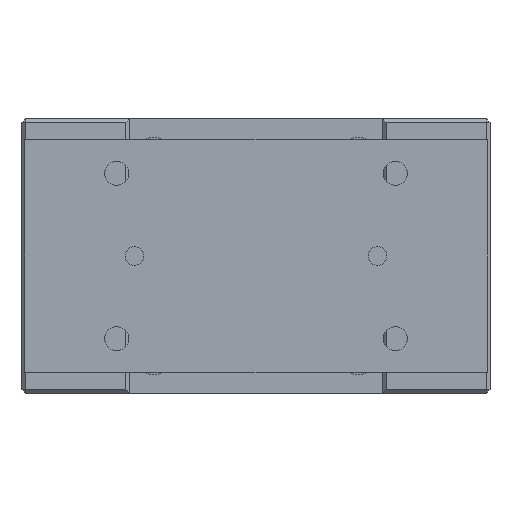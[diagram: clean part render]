
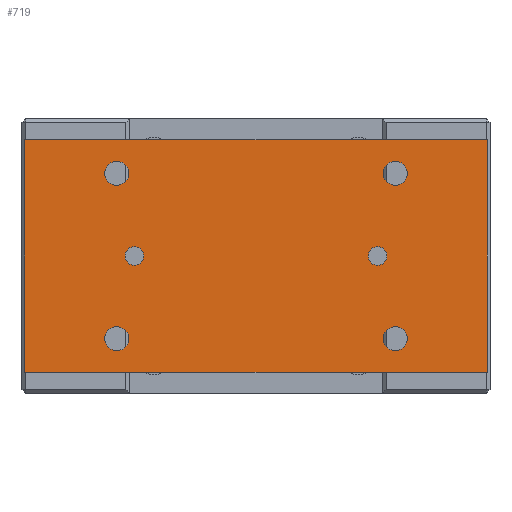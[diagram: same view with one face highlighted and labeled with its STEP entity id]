
A CAD part, left-side view. The second image highlights one B-rep face of the part: STEP entity #719.
In plain terms, the highlighted planar face has unit normal (-1, 0, 0).
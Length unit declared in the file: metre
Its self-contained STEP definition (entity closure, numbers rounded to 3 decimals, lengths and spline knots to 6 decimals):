
#719 = ADVANCED_FACE( '', ( #1580, #1581, #1582, #1583, #1584, #1585, #1586 ), #1587, .T. );
#1580 = FACE_BOUND( '', #2470, .T. );
#1581 = FACE_BOUND( '', #2471, .T. );
#1582 = FACE_BOUND( '', #2472, .T. );
#1583 = FACE_BOUND( '', #2473, .T. );
#1584 = FACE_BOUND( '', #2474, .T. );
#1585 = FACE_BOUND( '', #2475, .T. );
#1586 = FACE_OUTER_BOUND( '', #2476, .T. );
#1587 = PLANE( '', #2477 );
#2470 = EDGE_LOOP( '', ( #4173 ) );
#2471 = EDGE_LOOP( '', ( #4174 ) );
#2472 = EDGE_LOOP( '', ( #4175 ) );
#2473 = EDGE_LOOP( '', ( #4176 ) );
#2474 = EDGE_LOOP( '', ( #4177 ) );
#2475 = EDGE_LOOP( '', ( #4178 ) );
#2476 = EDGE_LOOP( '', ( #4179, #4180, #4181, #4182 ) );
#2477 = AXIS2_PLACEMENT_3D( '', #4183, #4184, #4185 );
#4173 = ORIENTED_EDGE( '', *, *, #4541, .F. );
#4174 = ORIENTED_EDGE( '', *, *, #4769, .T. );
#4175 = ORIENTED_EDGE( '', *, *, #4432, .F. );
#4176 = ORIENTED_EDGE( '', *, *, #4681, .F. );
#4177 = ORIENTED_EDGE( '', *, *, #4297, .F. );
#4178 = ORIENTED_EDGE( '', *, *, #4624, .F. );
#4179 = ORIENTED_EDGE( '', *, *, #4694, .T. );
#4180 = ORIENTED_EDGE( '', *, *, #4323, .T. );
#4181 = ORIENTED_EDGE( '', *, *, #4891, .T. );
#4182 = ORIENTED_EDGE( '', *, *, #4755, .T. );
#4183 = CARTESIAN_POINT( '', ( -0.143, -0.1245, -0.0115 ) );
#4184 = DIRECTION( '', ( -1., 0., 0. ) );
#4185 = DIRECTION( '', ( 0., 0., 1. ) );
#4297 = EDGE_CURVE( '', #4945, #4945, #4946, .T. );
#4323 = EDGE_CURVE( '', #4992, #4990, #4993, .T. );
#4432 = EDGE_CURVE( '', #5174, #5174, #5175, .T. );
#4541 = EDGE_CURVE( '', #5346, #5346, #5347, .T. );
#4624 = EDGE_CURVE( '', #5466, #5466, #5467, .T. );
#4681 = EDGE_CURVE( '', #5551, #5551, #5552, .T. );
#4694 = EDGE_CURVE( '', #5568, #4992, #5569, .T. );
#4755 = EDGE_CURVE( '', #5652, #5568, #5653, .T. );
#4769 = EDGE_CURVE( '', #5670, #5670, #5671, .T. );
#4891 = EDGE_CURVE( '', #4990, #5652, #5817, .T. );
#4945 = VERTEX_POINT( '', #5879 );
#4946 = CIRCLE( '', #5880, 0.0065 );
#4990 = VERTEX_POINT( '', #5935 );
#4992 = VERTEX_POINT( '', #5938 );
#4993 = LINE( '', #5939, #5940 );
#5174 = VERTEX_POINT( '', #6210 );
#5175 = CIRCLE( '', #6211, 0.0065 );
#5346 = VERTEX_POINT( '', #6498 );
#5347 = CIRCLE( '', #6499, 0.005 );
#5466 = VERTEX_POINT( '', #6655 );
#5467 = CIRCLE( '', #6656, 0.0065 );
#5551 = VERTEX_POINT( '', #6862 );
#5552 = CIRCLE( '', #6863, 0.0065 );
#5568 = VERTEX_POINT( '', #6883 );
#5569 = LINE( '', #6884, #6885 );
#5652 = VERTEX_POINT( '', #7029 );
#5653 = LINE( '', #7030, #7031 );
#5670 = VERTEX_POINT( '', #7053 );
#5671 = CIRCLE( '', #7054, 0.005 );
#5817 = LINE( '', #7256, #7257 );
#5879 = CARTESIAN_POINT( '', ( -0.143, -0.075, -0.023 ) );
#5880 = AXIS2_PLACEMENT_3D( '', #7304, #7305, #7306 );
#5935 = CARTESIAN_POINT( '', ( -0.143, 0.1245, -0.0115 ) );
#5938 = CARTESIAN_POINT( '', ( -0.143, -0.1245, -0.0115 ) );
#5939 = CARTESIAN_POINT( '', ( -0.143, -0.1245, -0.0115 ) );
#5940 = VECTOR( '', #7340, 1. );
#6210 = CARTESIAN_POINT( '', ( -0.143, -0.075, -0.112 ) );
#6211 = AXIS2_PLACEMENT_3D( '', #7466, #7467, #7468 );
#6498 = CARTESIAN_POINT( '', ( -0.143, -0.0705, -0.074 ) );
#6499 = AXIS2_PLACEMENT_3D( '', #7600, #7601, #7602 );
#6655 = CARTESIAN_POINT( '', ( -0.143, 0.075, -0.023 ) );
#6656 = AXIS2_PLACEMENT_3D( '', #7691, #7692, #7693 );
#6862 = CARTESIAN_POINT( '', ( -0.143, 0.075, -0.112 ) );
#6863 = AXIS2_PLACEMENT_3D( '', #7750, #7751, #7752 );
#6883 = CARTESIAN_POINT( '', ( -0.143, -0.1245, -0.1365 ) );
#6884 = CARTESIAN_POINT( '', ( -0.143, -0.1245, -0.1365 ) );
#6885 = VECTOR( '', #7763, 1. );
#7029 = CARTESIAN_POINT( '', ( -0.143, 0.1245, -0.1365 ) );
#7030 = CARTESIAN_POINT( '', ( -0.143, 0.1245, -0.1365 ) );
#7031 = VECTOR( '', #7816, 1. );
#7053 = CARTESIAN_POINT( '', ( -0.143, 0.0705, -0.074 ) );
#7054 = AXIS2_PLACEMENT_3D( '', #7828, #7829, #7830 );
#7256 = CARTESIAN_POINT( '', ( -0.143, 0.1245, -0.0115 ) );
#7257 = VECTOR( '', #7926, 1. );
#7304 = CARTESIAN_POINT( '', ( -0.143, -0.075, -0.0295 ) );
#7305 = DIRECTION( '', ( -1., 0., 0. ) );
#7306 = DIRECTION( '', ( 0., 0., 1. ) );
#7340 = DIRECTION( '', ( 0., 1., 0. ) );
#7466 = CARTESIAN_POINT( '', ( -0.143, -0.075, -0.1185 ) );
#7467 = DIRECTION( '', ( -1., 0., 0. ) );
#7468 = DIRECTION( '', ( 0., 0., 1. ) );
#7600 = CARTESIAN_POINT( '', ( -0.143, -0.0655, -0.074 ) );
#7601 = DIRECTION( '', ( -1., 0., 0. ) );
#7602 = DIRECTION( '', ( 0., -1., 0. ) );
#7691 = CARTESIAN_POINT( '', ( -0.143, 0.075, -0.0295 ) );
#7692 = DIRECTION( '', ( -1., 0., 0. ) );
#7693 = DIRECTION( '', ( 0., 0., 1. ) );
#7750 = CARTESIAN_POINT( '', ( -0.143, 0.075, -0.1185 ) );
#7751 = DIRECTION( '', ( -1., 0., 0. ) );
#7752 = DIRECTION( '', ( 0., 0., 1. ) );
#7763 = DIRECTION( '', ( 0., 0., 1. ) );
#7816 = DIRECTION( '', ( 0., -1., 0. ) );
#7828 = CARTESIAN_POINT( '', ( -0.143, 0.0655, -0.074 ) );
#7829 = DIRECTION( '', ( 1., 0., 0. ) );
#7830 = DIRECTION( '', ( 0., 1., 0. ) );
#7926 = DIRECTION( '', ( 0., 0., -1. ) );
